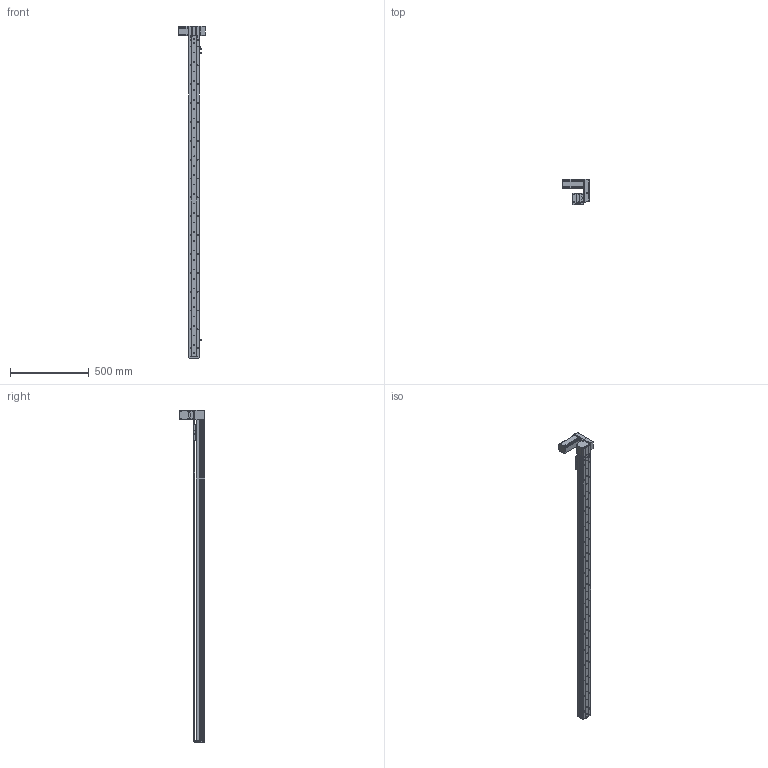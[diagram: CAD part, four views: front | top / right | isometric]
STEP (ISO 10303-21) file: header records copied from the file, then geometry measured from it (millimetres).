
FILE_DESCRIPTION (( 'STEP AP214' ), '1' );
FILE_NAME ('KSD68BS-S1850-MLU-CM.STEP', '2019-11-06T07:11:51', ( '微软用户' ), ( '微软中国' ), 'SwSTEP 2.0', 'SolidWorks 2014', '' );
FILE_SCHEMA (( 'AUTOMOTIVE_DESIGN' ));
Length unit declared in the file: millimetre
Products named in the file (11): 悵誘欶奻狟殏; 68宽马达安装板连板上折同步带; 68宽单导轨半封闭同步带主动轮座左; 68单导轨同步带半封闭端板; KSD68BS 1850俴最裔啣圉猾敕; 覜茼え68遵圉猾敕; KSD68BS半封闭同步带传动导轨座; U倰嫖萇EEㄜSX672; 台达ECMA－C20604AS伺服电机（400W); KSD68BS 1850俴最菁啣圉猾敕; KSD68BS-S1850-MLU-CM
Assembly tree (12 placements, depth 2):
  KSD68BS-S1850-MLU-CM
    KSD68BS 1850俴最菁啣圉猾敕
    台达ECMA－C20604AS伺服电机（400W)
    U倰嫖萇EEㄜSX672  x3
    KSD68BS半封闭同步带传动导轨座
    覜茼え68遵圉猾敕
    KSD68BS 1850俴最裔啣圉猾敕
    68单导轨同步带半封闭端板
    68宽单导轨半封闭同步带主动轮座左
    68宽马达安装板连板上折同步带
    悵誘欶奻狟殏
Bounding box: 167.2 x 159.5 x 2112 mm (x, y, z)
Volume: 3442318.1 mm3; surface area: 1295263.1 mm2
Topology: 13 solids, 13 shells, 1674 faces, 4934 edges, 3218 vertices
Faces by surface type: cylinder 896, plane 695, cone 83
Entity records: 66502 total; most frequent: CARTESIAN_POINT 13618, ORIENTED_EDGE 8620, DIRECTION 8276, EDGE_CURVE 4310, AXIS2_PLACEMENT_3D 2988, VERTEX_POINT 2842, LINE 2300, VECTOR 2300
